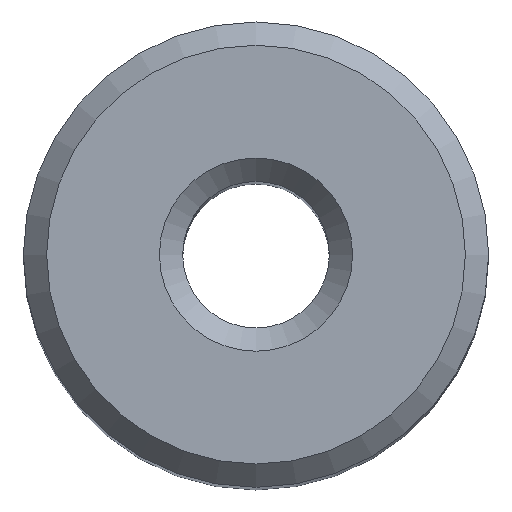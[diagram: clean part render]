
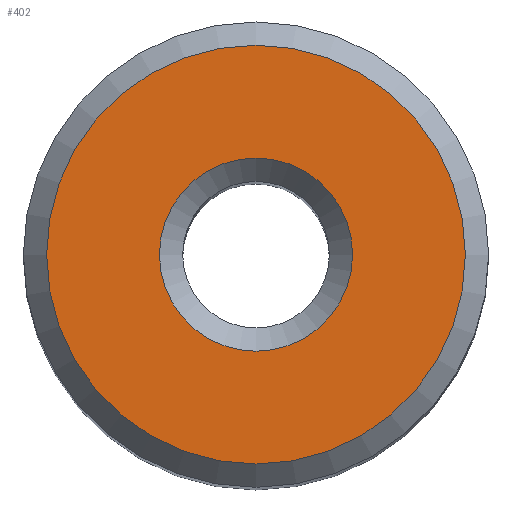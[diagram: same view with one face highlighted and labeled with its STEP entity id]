
A CAD part, top view. The second image highlights one B-rep face of the part: STEP entity #402.
In plain terms, the highlighted planar face has unit normal (0, 0, 1).
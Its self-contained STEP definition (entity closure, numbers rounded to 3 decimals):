
#233 = CONICAL_SURFACE('',#234,3.15,0.785);
#234 = AXIS2_PLACEMENT_3D('',#235,#236,#237);
#235 = CARTESIAN_POINT('',(0.,0.,66.3));
#236 = DIRECTION('',(0.,0.,1.));
#237 = DIRECTION('',(1.,0.,-0.));
#290 = CONICAL_SURFACE('',#291,10.,0.785);
#291 = AXIS2_PLACEMENT_3D('',#292,#293,#294);
#292 = CARTESIAN_POINT('',(0.,0.,66.3));
#293 = DIRECTION('',(-0.,-0.,-1.));
#294 = DIRECTION('',(1.,0.,0.));
#306 = VERTEX_POINT('',#307);
#307 = CARTESIAN_POINT('',(4.15,0.,67.3));
#326 = EDGE_CURVE('',#306,#306,#327,.T.);
#327 = SURFACE_CURVE('',#328,(#333,#340),.PCURVE_S1.);
#328 = CIRCLE('',#329,4.15);
#329 = AXIS2_PLACEMENT_3D('',#330,#331,#332);
#330 = CARTESIAN_POINT('',(0.,0.,67.3));
#331 = DIRECTION('',(0.,0.,1.));
#332 = DIRECTION('',(1.,0.,-0.));
#333 = PCURVE('',#233,#334);
#334 = DEFINITIONAL_REPRESENTATION('',(#335),#339);
#335 = LINE('',#336,#337);
#336 = CARTESIAN_POINT('',(-0.,1.));
#337 = VECTOR('',#338,1.);
#338 = DIRECTION('',(1.,-0.));
#339 = ( GEOMETRIC_REPRESENTATION_CONTEXT(2) 
PARAMETRIC_REPRESENTATION_CONTEXT() REPRESENTATION_CONTEXT('2D SPACE',''
  ) );
#340 = PCURVE('',#341,#346);
#341 = PLANE('',#342);
#342 = AXIS2_PLACEMENT_3D('',#343,#344,#345);
#343 = CARTESIAN_POINT('',(0.,0.,67.3));
#344 = DIRECTION('',(0.,0.,1.));
#345 = DIRECTION('',(1.,0.,-0.));
#346 = DEFINITIONAL_REPRESENTATION('',(#347),#351);
#347 = CIRCLE('',#348,4.15);
#348 = AXIS2_PLACEMENT_2D('',#349,#350);
#349 = CARTESIAN_POINT('',(0.,0.));
#350 = DIRECTION('',(1.,0.));
#351 = ( GEOMETRIC_REPRESENTATION_CONTEXT(2) 
PARAMETRIC_REPRESENTATION_CONTEXT() REPRESENTATION_CONTEXT('2D SPACE',''
  ) );
#359 = VERTEX_POINT('',#360);
#360 = CARTESIAN_POINT('',(9.,0.,67.3));
#381 = EDGE_CURVE('',#359,#359,#382,.T.);
#382 = SURFACE_CURVE('',#383,(#388,#395),.PCURVE_S1.);
#383 = CIRCLE('',#384,9.);
#384 = AXIS2_PLACEMENT_3D('',#385,#386,#387);
#385 = CARTESIAN_POINT('',(0.,0.,67.3));
#386 = DIRECTION('',(0.,0.,1.));
#387 = DIRECTION('',(1.,0.,-0.));
#388 = PCURVE('',#290,#389);
#389 = DEFINITIONAL_REPRESENTATION('',(#390),#394);
#390 = LINE('',#391,#392);
#391 = CARTESIAN_POINT('',(-0.,-1.));
#392 = VECTOR('',#393,1.);
#393 = DIRECTION('',(-1.,-0.));
#394 = ( GEOMETRIC_REPRESENTATION_CONTEXT(2) 
PARAMETRIC_REPRESENTATION_CONTEXT() REPRESENTATION_CONTEXT('2D SPACE',''
  ) );
#395 = PCURVE('',#341,#396);
#396 = DEFINITIONAL_REPRESENTATION('',(#397),#401);
#397 = CIRCLE('',#398,9.);
#398 = AXIS2_PLACEMENT_2D('',#399,#400);
#399 = CARTESIAN_POINT('',(0.,0.));
#400 = DIRECTION('',(1.,0.));
#401 = ( GEOMETRIC_REPRESENTATION_CONTEXT(2) 
PARAMETRIC_REPRESENTATION_CONTEXT() REPRESENTATION_CONTEXT('2D SPACE',''
  ) );
#402 = ADVANCED_FACE('',(#403,#406),#341,.T.);
#403 = FACE_BOUND('',#404,.T.);
#404 = EDGE_LOOP('',(#405));
#405 = ORIENTED_EDGE('',*,*,#326,.F.);
#406 = FACE_BOUND('',#407,.T.);
#407 = EDGE_LOOP('',(#408));
#408 = ORIENTED_EDGE('',*,*,#381,.T.);
